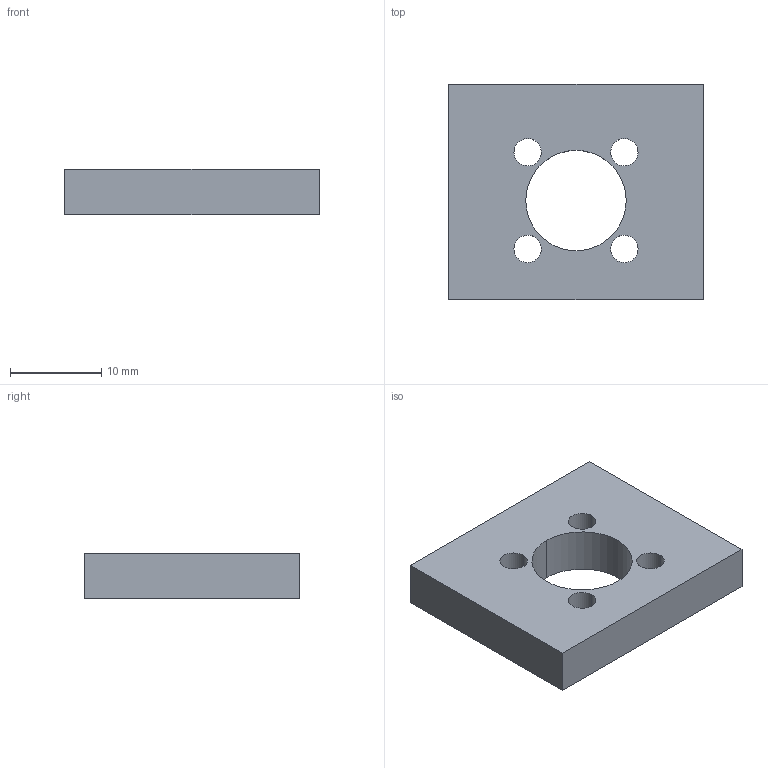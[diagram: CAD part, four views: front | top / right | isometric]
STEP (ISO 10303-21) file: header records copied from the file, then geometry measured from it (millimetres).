
FILE_DESCRIPTION(/* description */ (''),/* implementation_level */ '2;1');
FILE_NAME(/* name */ 'SO51E2~1',/* time_stamp */ '2019-04-01T21:22:56-03:00',/* author */ (''),/* organization */ (''),/* preprocessor_version */ 'ST-DEVELOPER v16.5',/* originating_system */ '',/* authorisation */ '');
FILE_SCHEMA (('AUTOMOTIVE_DESIGN'));
Length unit declared in the file: millimetre
Products named in the file (1): Document
Bounding box: 27.89 x 23.58 x 5 mm (x, y, z)
Volume: 2671.4 mm3; surface area: 1945.1 mm2
Topology: 1 solids, 1 shells, 16 faces, 42 edges, 28 vertices
Faces by surface type: bspline 10, plane 6
Entity records: 613 total; most frequent: CARTESIAN_POINT 336, ORIENTED_EDGE 84, EDGE_CURVE 42, VERTEX_POINT 28, EDGE_LOOP 26, ADVANCED_FACE 16, FACE_OUTER_BOUND 16, B_SPLINE_CURVE_WITH_KNOTS 12
